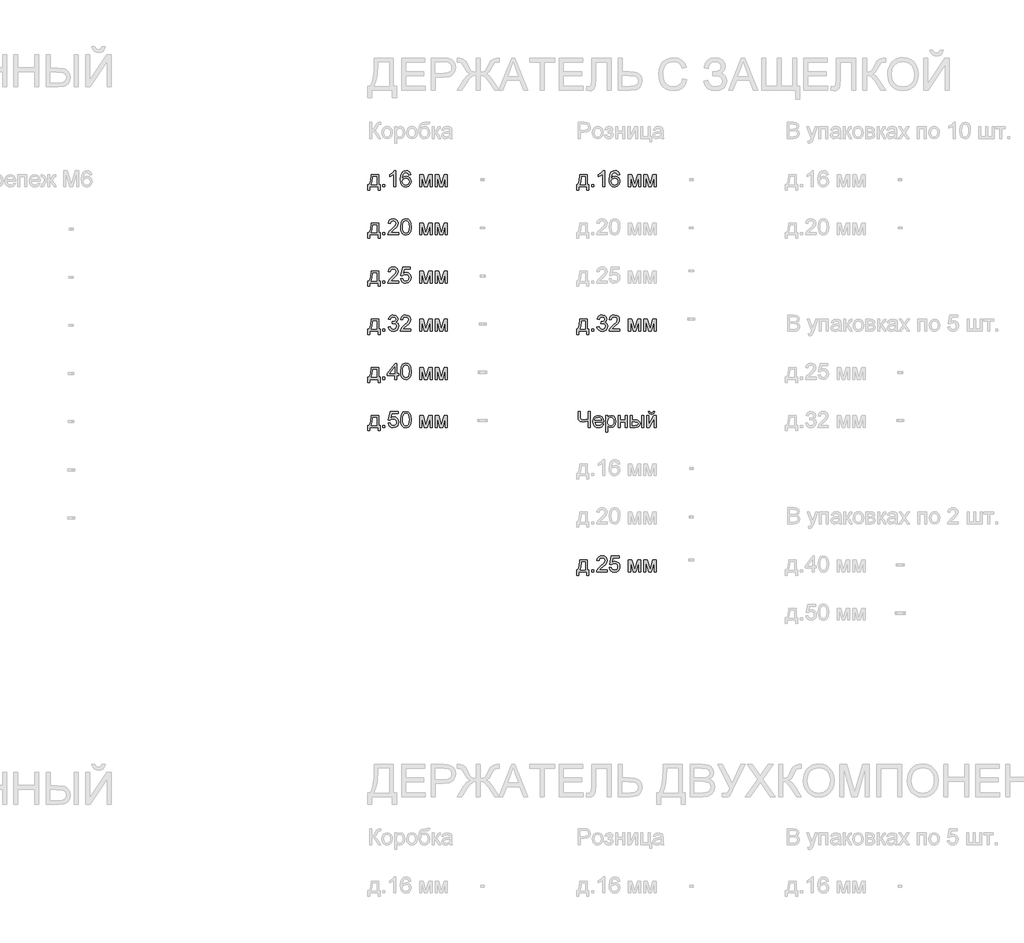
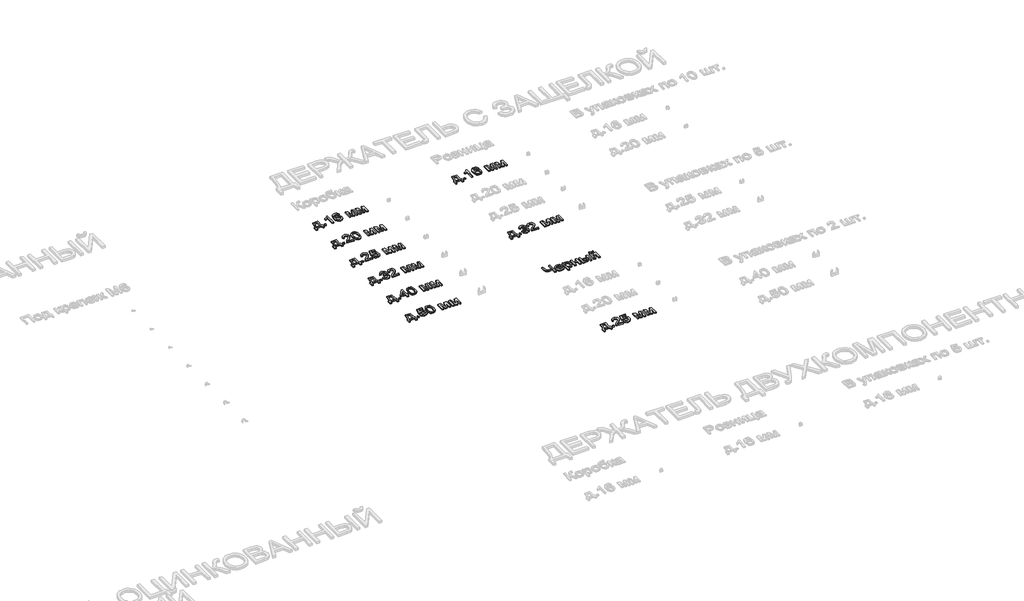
# One storey, part 41 of 98: 10 proxies.
"""IFC4 building model written with IfcOpenShell, lengths in millimetres."""

from ifc_helpers import new_model, si_unit, origin, origin_with_axes, place, context, project, spatial, polyline, outline, extrude, element, save

model = new_model("IFC4")

# Units and contexts
model_context = context("Model", 3, world=origin())
ifc_project = project(units=[si_unit("LENGTHUNIT", "METRE", prefix="MILLI")], contexts=[model_context])

# Site, building, storey
site = spatial("IfcSite", under=ifc_project)
building = spatial("IfcBuilding", under=site)
storey = spatial("IfcBuildingStorey", under=building, Name="Этаж 01", Elevation=0.0)

# Proxies
placement = place(None, origin())
element("IfcBuildingElementProxy", 1, Name="100", ObjectType="100", at=placement, inside=storey, context=model_context, shape_type="SweptSolid", body=[
    extrude(outline(polyline([(5774.7606918, -32185.7395637), (5821.8495872, -32185.7395637), (5821.8495872, -32246.9551277), (5831.2673663, -32246.9551277), (5831.2673663, -32279.9173545), (5818.7103275, -32279.9173545), (5818.7103275, -32259.5121665), (5766.9125426, -32259.5121665), (5766.9125426, -32279.9173545), (5754.3555038, -32279.9173545), (5754.3555038, -32246.9551277), (5762.2036531, -32246.9551277), (5771.903475, -32223.0060098), (5774.7606918, -32185.7395637)]), holes=[polyline([(5785.7481007, -32198.2966025), (5782.8050448, -32226.905559), (5776.3303217, -32246.9551277), (5809.2925484, -32246.9551277), (5809.2925484, -32198.2966025), (5785.7481007, -32198.2966025)])]), origin_with_axes(), (0.0, 0.0, 1.0), 10.0),
    extrude(outline(polyline([(5848.5332946, -32259.5121665), (5848.5332946, -32246.9551277), (5861.0903334, -32246.9551277), (5861.0903334, -32259.5121665), (5848.5332946, -32259.5121665)])), origin_with_axes(), (0.0, 0.0, 1.0), 10.0),
    extrude(outline(polyline([(5928.5844167, -32259.5121665), (5916.027378, -32259.5121665), (5916.027378, -32181.2268779), (5904.1325268, -32189.7004265), (5890.9133004, -32196.0402596), (5890.9133004, -32184.1699338), (5909.3196629, -32172.4222355), (5920.4910128, -32159.0558563), (5928.5844167, -32159.0558563), (5928.5844167, -32259.5121665)])), origin_with_axes(), (0.0, 0.0, 1.0), 10.0),
    extrude(outline(polyline([(6022.7622075, -32185.7395637), (6010.2051687, -32187.3091935), (6005.4472283, -32176.8368194), (5992.865664, -32171.6128951), (5981.5348986, -32174.6540529), (5972.9632481, -32186.0706575), (5969.3947927, -32208.4501455), (5980.4680408, -32198.4314925), (5994.1900392, -32195.1573428), (6005.7905848, -32197.3952916), (6015.5271949, -32204.109138), (6022.1306767, -32214.3669143), (6024.3318374, -32227.2366527), (6020.1870335, -32244.5638947), (6008.7826917, -32256.8266279), (5992.3261038, -32261.0817963), (5978.0798735, -32258.2613677), (5966.7337796, -32249.8000818), (5959.3117604, -32234.8640728), (5956.837754, -32212.6194748), (5959.5846062, -32187.6096305), (5967.8251629, -32170.5092491), (5979.0762206, -32161.9192045), (5993.650479, -32159.0558563), (6004.6685447, -32160.8278213), (6013.4915812, -32166.1437161), (6019.6719987, -32174.5866079), (6022.7622075, -32185.7395637)]), holes=[polyline([(5969.3947927, -32227.040449), (5972.3010605, -32237.9174933), (5980.0265824, -32245.8146935), (5991.3450851, -32248.5247575), (5999.6316271, -32247.1206746), (6006.1462041, -32242.9084257), (6010.36765, -32236.2865498), (6011.7747986, -32227.6535857), (6010.3860441, -32219.3670437), (6006.2197805, -32213.0486705), (5999.5948389, -32209.0479538), (5990.8300503, -32207.7143815), (5975.6365239, -32213.0486705), (5970.9552255, -32219.2137596), (5969.3947927, -32227.040449)])]), origin_with_axes(), (0.0, 0.0, 1.0), 10.0),
    extrude(outline(polyline([(6077.6992521, -32185.7395637), (6099.306188, -32185.7395637), (6115.9589796, -32244.7968867), (6133.911621, -32185.7395637), (6154.6111146, -32185.7395637), (6154.6111146, -32259.5121665), (6142.0540758, -32259.5121665), (6142.0540758, -32200.111487), (6124.0033326, -32259.5121665), (6107.5222192, -32259.5121665), (6090.2562909, -32197.2665329), (6090.2562909, -32259.5121665), (6077.6992521, -32259.5121665), (6077.6992521, -32185.7395637)])), origin_with_axes(), (0.0, 0.0, 1.0), 10.0),
    extrude(outline(polyline([(6173.4466727, -32185.7395637), (6195.0536086, -32185.7395637), (6211.7064002, -32244.7968867), (6229.6590416, -32185.7395637), (6250.3585352, -32185.7395637), (6250.3585352, -32259.5121665), (6237.8014964, -32259.5121665), (6237.8014964, -32200.111487), (6219.7507532, -32259.5121665), (6203.2696398, -32259.5121665), (6186.0037115, -32197.2665329), (6186.0037115, -32259.5121665), (6173.4466727, -32259.5121665), (6173.4466727, -32185.7395637)])), origin_with_axes(), (0.0, 0.0, 1.0), 10.0),
])
element("IfcBuildingElementProxy", 2, Name="100", ObjectType="100", at=placement, inside=storey, context=model_context, shape_type="SweptSolid", body=[
    extrude(outline(polyline([(5774.7606918, -32485.7395637), (5821.8495872, -32485.7395637), (5821.8495872, -32546.9551277), (5831.2673663, -32546.9551277), (5831.2673663, -32579.9173545), (5818.7103275, -32579.9173545), (5818.7103275, -32559.5121665), (5766.9125426, -32559.5121665), (5766.9125426, -32579.9173545), (5754.3555038, -32579.9173545), (5754.3555038, -32546.9551277), (5762.2036531, -32546.9551277), (5771.903475, -32523.0060098), (5774.7606918, -32485.7395637)]), holes=[polyline([(5785.7481007, -32498.2966025), (5782.8050448, -32526.905559), (5776.3303217, -32546.9551277), (5809.2925484, -32546.9551277), (5809.2925484, -32498.2966025), (5785.7481007, -32498.2966025)])]), origin_with_axes(), (0.0, 0.0, 1.0), 10.0),
    extrude(outline(polyline([(5848.5332946, -32559.5121665), (5848.5332946, -32546.9551277), (5861.0903334, -32546.9551277), (5861.0903334, -32559.5121665), (5848.5332946, -32559.5121665)])), origin_with_axes(), (0.0, 0.0, 1.0), 10.0),
    extrude(outline(polyline([(5945.850345, -32546.9551277), (5945.850345, -32559.5121665), (5879.9258915, -32559.5121665), (5881.2747922, -32550.8546768), (5888.9022122, -32537.5250859), (5904.6230361, -32522.9692216), (5926.3035484, -32502.0489988), (5931.7236764, -32487.8242283), (5926.6101167, -32476.3095219), (5913.2560003, -32471.6128951), (5899.3377981, -32476.1991573), (5894.0525601, -32488.8788234), (5881.4955214, -32487.3091935), (5884.5397449, -32475.1629563), (5891.1217669, -32466.2908689), (5900.8982309, -32460.8646095), (5913.5257804, -32459.0558563), (5926.2453004, -32461.0669445), (5936.0033703, -32467.1002093), (5942.211379, -32476.1133182), (5944.2807152, -32487.0639389), (5942.0488978, -32498.9710528), (5934.6299442, -32511.2828369), (5916.6405146, -32528.4874515), (5902.195015, -32540.5662437), (5896.5296322, -32546.9551277), (5945.850345, -32546.9551277)])), origin_with_axes(), (0.0, 0.0, 1.0), 10.0),
    extrude(outline(polyline([(5958.4073838, -32510.0933518), (5962.0984665, -32481.1900897), (5973.06135, -32464.5250353), (5991.3696106, -32459.0558563), (6006.0358395, -32462.2932179), (6016.1648571, -32471.6251578), (6022.050969, -32486.4875904), (6024.3318374, -32510.0933518), (6020.6775429, -32538.8739865), (6009.7514476, -32555.5758291), (6001.520088, -32559.7053045), (5991.3696106, -32561.0817963), (5978.3220625, -32558.6905633), (5968.4137741, -32551.5168644), (5960.9089814, -32534.5268476), (5958.4073838, -32510.0933518)]), holes=[polyline([(5970.9644226, -32510.0688263), (5972.4359506, -32529.8210238), (5976.8505345, -32541.2529568), (5983.4233595, -32546.7068073), (5991.3696106, -32548.5247575), (5999.3158617, -32546.700676), (6005.8886867, -32541.2284313), (6010.3032706, -32529.7903669), (6011.7747986, -32510.0688263), (6010.3523215, -32490.7611529), (6006.0848904, -32479.2403151), (5999.5243281, -32473.5197501), (5991.2224578, -32471.6128951), (5983.3620458, -32473.2928895), (5977.0467382, -32478.3328729), (5972.4850015, -32490.5710806), (5970.9644226, -32510.0688263)])]), origin_with_axes(), (0.0, 0.0, 1.0), 10.0),
    extrude(outline(polyline([(6077.6992521, -32485.7395637), (6099.306188, -32485.7395637), (6115.9589796, -32544.7968867), (6133.911621, -32485.7395637), (6154.6111146, -32485.7395637), (6154.6111146, -32559.5121665), (6142.0540758, -32559.5121665), (6142.0540758, -32500.111487), (6124.0033326, -32559.5121665), (6107.5222192, -32559.5121665), (6090.2562909, -32497.2665329), (6090.2562909, -32559.5121665), (6077.6992521, -32559.5121665), (6077.6992521, -32485.7395637)])), origin_with_axes(), (0.0, 0.0, 1.0), 10.0),
    extrude(outline(polyline([(6173.4466727, -32485.7395637), (6195.0536086, -32485.7395637), (6211.7064002, -32544.7968867), (6229.6590416, -32485.7395637), (6250.3585352, -32485.7395637), (6250.3585352, -32559.5121665), (6237.8014964, -32559.5121665), (6237.8014964, -32500.111487), (6219.7507532, -32559.5121665), (6203.2696398, -32559.5121665), (6186.0037115, -32497.2665329), (6186.0037115, -32559.5121665), (6173.4466727, -32559.5121665), (6173.4466727, -32485.7395637)])), origin_with_axes(), (0.0, 0.0, 1.0), 10.0),
])
element("IfcBuildingElementProxy", 3, Name="100", ObjectType="100", at=placement, inside=storey, context=model_context, shape_type="SweptSolid", body=[
    extrude(outline(polyline([(5774.7606918, -32785.7395637), (5821.8495872, -32785.7395637), (5821.8495872, -32846.9551277), (5831.2673663, -32846.9551277), (5831.2673663, -32879.9173545), (5818.7103275, -32879.9173545), (5818.7103275, -32859.5121665), (5766.9125426, -32859.5121665), (5766.9125426, -32879.9173545), (5754.3555038, -32879.9173545), (5754.3555038, -32846.9551277), (5762.2036531, -32846.9551277), (5771.903475, -32823.0060098), (5774.7606918, -32785.7395637)]), holes=[polyline([(5785.7481007, -32798.2966025), (5782.8050448, -32826.905559), (5776.3303217, -32846.9551277), (5809.2925484, -32846.9551277), (5809.2925484, -32798.2966025), (5785.7481007, -32798.2966025)])]), origin_with_axes(), (0.0, 0.0, 1.0), 10.0),
    extrude(outline(polyline([(5848.5332946, -32859.5121665), (5848.5332946, -32846.9551277), (5861.0903334, -32846.9551277), (5861.0903334, -32859.5121665), (5848.5332946, -32859.5121665)])), origin_with_axes(), (0.0, 0.0, 1.0), 10.0),
    extrude(outline(polyline([(5945.850345, -32846.9551277), (5945.850345, -32859.5121665), (5879.9258915, -32859.5121665), (5881.2747922, -32850.8546768), (5888.9022122, -32837.5250859), (5904.6230361, -32822.9692216), (5926.3035484, -32802.0489988), (5931.7236764, -32787.8242283), (5926.6101167, -32776.3095219), (5913.2560003, -32771.6128951), (5899.3377981, -32776.1991573), (5894.0525601, -32788.8788234), (5881.4955214, -32787.3091935), (5884.5397449, -32775.1629563), (5891.1217669, -32766.2908689), (5900.8982309, -32760.8646095), (5913.5257804, -32759.0558563), (5926.2453004, -32761.0669445), (5936.0033703, -32767.1002093), (5942.211379, -32776.1133182), (5944.2807152, -32787.0639389), (5942.0488978, -32798.9710528), (5934.6299442, -32811.2828369), (5916.6405146, -32828.4874515), (5902.195015, -32840.5662437), (5896.5296322, -32846.9551277), (5945.850345, -32846.9551277)])), origin_with_axes(), (0.0, 0.0, 1.0), 10.0),
    extrude(outline(polyline([(5958.4073838, -32832.8284591), (5970.9644226, -32831.2588292), (5977.2919929, -32844.1960127), (5990.4131174, -32848.5247575), (5999.4139635, -32847.019507), (6006.1584668, -32842.5037555), (6010.3707156, -32835.4986692), (6011.7747986, -32826.5254142), (6006.5140861, -32811.6139307), (5999.9075386, -32807.5120464), (5990.6093211, -32806.1447517), (5979.585124, -32808.3275182), (5972.5340524, -32813.9929009), (5959.9770137, -32812.4232711), (5970.9644226, -32760.6254862), (6019.6229478, -32760.6254862), (6019.6229478, -32773.1825249), (5981.1179657, -32773.1825249), (5975.7468885, -32800.847251), (5984.7170778, -32795.4025974), (5994.1164628, -32793.5877129), (6005.8488328, -32795.8379245), (6015.5885086, -32802.5885591), (6022.1460052, -32812.8769922), (6024.3318374, -32825.7405993), (6022.3636687, -32838.2976381), (6016.4591627, -32849.0397923), (6005.1529227, -32858.0712953), (5990.3640665, -32861.0817963), (5978.0308226, -32859.1473501), (5968.2053076, -32853.3440117), (5961.4700014, -32844.3462312), (5958.4073838, -32832.8284591)])), origin_with_axes(), (0.0, 0.0, 1.0), 10.0),
    extrude(outline(polyline([(6077.6992521, -32785.7395637), (6099.306188, -32785.7395637), (6115.9589796, -32844.7968867), (6133.911621, -32785.7395637), (6154.6111146, -32785.7395637), (6154.6111146, -32859.5121665), (6142.0540758, -32859.5121665), (6142.0540758, -32800.111487), (6124.0033326, -32859.5121665), (6107.5222192, -32859.5121665), (6090.2562909, -32797.2665329), (6090.2562909, -32859.5121665), (6077.6992521, -32859.5121665), (6077.6992521, -32785.7395637)])), origin_with_axes(), (0.0, 0.0, 1.0), 10.0),
    extrude(outline(polyline([(6173.4466727, -32785.7395637), (6195.0536086, -32785.7395637), (6211.7064002, -32844.7968867), (6229.6590416, -32785.7395637), (6250.3585352, -32785.7395637), (6250.3585352, -32859.5121665), (6237.8014964, -32859.5121665), (6237.8014964, -32800.111487), (6219.7507532, -32859.5121665), (6203.2696398, -32859.5121665), (6186.0037115, -32797.2665329), (6186.0037115, -32859.5121665), (6173.4466727, -32859.5121665), (6173.4466727, -32785.7395637)])), origin_with_axes(), (0.0, 0.0, 1.0), 10.0),
])
element("IfcBuildingElementProxy", 4, Name="100", ObjectType="100", at=placement, inside=storey, context=model_context, shape_type="SweptSolid", body=[
    extrude(outline(polyline([(5774.7606918, -33085.7395637), (5821.8495872, -33085.7395637), (5821.8495872, -33146.9551277), (5831.2673663, -33146.9551277), (5831.2673663, -33179.9173545), (5818.7103275, -33179.9173545), (5818.7103275, -33159.5121665), (5766.9125426, -33159.5121665), (5766.9125426, -33179.9173545), (5754.3555038, -33179.9173545), (5754.3555038, -33146.9551277), (5762.2036531, -33146.9551277), (5771.903475, -33123.0060098), (5774.7606918, -33085.7395637)]), holes=[polyline([(5785.7481007, -33098.2966025), (5782.8050448, -33126.905559), (5776.3303217, -33146.9551277), (5809.2925484, -33146.9551277), (5809.2925484, -33098.2966025), (5785.7481007, -33098.2966025)])]), origin_with_axes(), (0.0, 0.0, 1.0), 10.0),
    extrude(outline(polyline([(5848.5332946, -33159.5121665), (5848.5332946, -33146.9551277), (5861.0903334, -33146.9551277), (5861.0903334, -33159.5121665), (5848.5332946, -33159.5121665)])), origin_with_axes(), (0.0, 0.0, 1.0), 10.0),
    extrude(outline(polyline([(5881.4955214, -33132.8284591), (5894.0525601, -33131.2588292), (5900.9810044, -33144.4780556), (5913.9427133, -33148.5247575), (5922.551152, -33147.1329373), (5929.1975534, -33142.9574767), (5934.8629361, -33129.1741646), (5929.2466043, -33116.1879302), (5914.9727829, -33111.049845), (5906.1681405, -33112.4232711), (5907.5660921, -33099.8662323), (5909.5771803, -33100.0133851), (5923.8264763, -33096.4081416), (5928.572154, -33091.8341421), (5930.1540466, -33085.3226308), (5925.5677844, -33075.5001815), (5913.7465096, -33071.6128951), (5901.778082, -33075.5369697), (5895.62219, -33087.3091935), (5883.0651512, -33085.7395637), (5886.7623653, -33074.4639805), (5893.3413216, -33066.0456142), (5902.3421678, -33060.8032958), (5913.3050512, -33059.0558563), (5928.4495267, -33062.5016843), (5939.0445281, -33071.9194634), (5942.7110854, -33084.5868668), (5939.2284691, -33096.1628869), (5928.9277733, -33104.47702), (5942.6129835, -33113.0609332), (5947.4199749, -33129.3948938), (5945.0164792, -33141.6331015), (5937.8059921, -33151.860221), (5926.9228164, -33158.7764025), (5913.5012549, -33161.0817963), (5901.3611491, -33159.1136276), (5891.4773862, -33153.2091216), (5884.6041242, -33144.1776186), (5881.4955214, -33132.8284591)])), origin_with_axes(), (0.0, 0.0, 1.0), 10.0),
    extrude(outline(polyline([(6022.7622075, -33146.9551277), (6022.7622075, -33159.5121665), (5956.837754, -33159.5121665), (5958.1866546, -33150.8546768), (5965.8140747, -33137.5250859), (5981.5348986, -33122.9692216), (6003.2154108, -33102.0489988), (6008.6355389, -33087.8242283), (6003.5219792, -33076.3095219), (5990.1678627, -33071.6128951), (5976.2496606, -33076.1991573), (5970.9644226, -33088.8788234), (5958.4073838, -33087.3091935), (5961.4516073, -33075.1629563), (5968.0336294, -33066.2908689), (5977.8100934, -33060.8646095), (5990.4376429, -33059.0558563), (6003.1571628, -33061.0669445), (6012.9152328, -33067.1002093), (6019.1232414, -33076.1133182), (6021.1925777, -33087.0639389), (6018.9607602, -33098.9710528), (6011.5418067, -33111.2828369), (5993.5523771, -33128.4874515), (5979.1068774, -33140.5662437), (5973.4414947, -33146.9551277), (6022.7622075, -33146.9551277)])), origin_with_axes(), (0.0, 0.0, 1.0), 10.0),
    extrude(outline(polyline([(6077.6992521, -33085.7395637), (6099.306188, -33085.7395637), (6115.9589796, -33144.7968867), (6133.911621, -33085.7395637), (6154.6111146, -33085.7395637), (6154.6111146, -33159.5121665), (6142.0540758, -33159.5121665), (6142.0540758, -33100.111487), (6124.0033326, -33159.5121665), (6107.5222192, -33159.5121665), (6090.2562909, -33097.2665329), (6090.2562909, -33159.5121665), (6077.6992521, -33159.5121665), (6077.6992521, -33085.7395637)])), origin_with_axes(), (0.0, 0.0, 1.0), 10.0),
    extrude(outline(polyline([(6173.4466727, -33085.7395637), (6195.0536086, -33085.7395637), (6211.7064002, -33144.7968867), (6229.6590416, -33085.7395637), (6250.3585352, -33085.7395637), (6250.3585352, -33159.5121665), (6237.8014964, -33159.5121665), (6237.8014964, -33100.111487), (6219.7507532, -33159.5121665), (6203.2696398, -33159.5121665), (6186.0037115, -33097.2665329), (6186.0037115, -33159.5121665), (6173.4466727, -33159.5121665), (6173.4466727, -33085.7395637)])), origin_with_axes(), (0.0, 0.0, 1.0), 10.0),
])
element("IfcBuildingElementProxy", 5, Name="100", ObjectType="100", at=placement, inside=storey, context=model_context, shape_type="SweptSolid", body=[
    extrude(outline(polyline([(5774.7606918, -33385.7395637), (5821.8495872, -33385.7395637), (5821.8495872, -33446.9551277), (5831.2673663, -33446.9551277), (5831.2673663, -33479.9173545), (5818.7103275, -33479.9173545), (5818.7103275, -33459.5121665), (5766.9125426, -33459.5121665), (5766.9125426, -33479.9173545), (5754.3555038, -33479.9173545), (5754.3555038, -33446.9551277), (5762.2036531, -33446.9551277), (5771.903475, -33423.0060098), (5774.7606918, -33385.7395637)]), holes=[polyline([(5785.7481007, -33398.2966025), (5782.8050448, -33426.905559), (5776.3303217, -33446.9551277), (5809.2925484, -33446.9551277), (5809.2925484, -33398.2966025), (5785.7481007, -33398.2966025)])]), origin_with_axes(), (0.0, 0.0, 1.0), 10.0),
    extrude(outline(polyline([(5848.5332946, -33459.5121665), (5848.5332946, -33446.9551277), (5861.0903334, -33446.9551277), (5861.0903334, -33459.5121665), (5848.5332946, -33459.5121665)])), origin_with_axes(), (0.0, 0.0, 1.0), 10.0),
    extrude(outline(polyline([(5922.3058974, -33459.5121665), (5922.3058974, -33435.9677188), (5876.7866318, -33435.9677188), (5876.7866318, -33423.41068), (5925.445157, -33360.6254862), (5934.8629361, -33360.6254862), (5934.8629361, -33423.41068), (5947.4199749, -33423.41068), (5947.4199749, -33435.9677188), (5934.8629361, -33435.9677188), (5934.8629361, -33459.5121665), (5922.3058974, -33459.5121665)]), holes=[polyline([(5922.3058974, -33423.41068), (5922.3058974, -33384.6113922), (5892.2376756, -33423.41068), (5922.3058974, -33423.41068)])]), origin_with_axes(), (0.0, 0.0, 1.0), 10.0),
    extrude(outline(polyline([(5958.4073838, -33410.0933518), (5962.0984665, -33381.1900897), (5973.06135, -33364.5250353), (5991.3696106, -33359.0558563), (6006.0358395, -33362.2932179), (6016.1648571, -33371.6251578), (6022.050969, -33386.4875904), (6024.3318374, -33410.0933518), (6020.6775429, -33438.8739865), (6009.7514476, -33455.5758291), (6001.520088, -33459.7053045), (5991.3696106, -33461.0817963), (5978.3220625, -33458.6905633), (5968.4137741, -33451.5168644), (5960.9089814, -33434.5268476), (5958.4073838, -33410.0933518)]), holes=[polyline([(5970.9644226, -33410.0688263), (5972.4359506, -33429.8210238), (5976.8505345, -33441.2529568), (5983.4233595, -33446.7068073), (5991.3696106, -33448.5247575), (5999.3158617, -33446.700676), (6005.8886867, -33441.2284313), (6010.3032706, -33429.7903669), (6011.7747986, -33410.0688263), (6010.3523215, -33390.7611529), (6006.0848904, -33379.2403151), (5999.5243281, -33373.5197501), (5991.2224578, -33371.6128951), (5983.3620458, -33373.2928895), (5977.0467382, -33378.3328729), (5972.4850015, -33390.5710806), (5970.9644226, -33410.0688263)])]), origin_with_axes(), (0.0, 0.0, 1.0), 10.0),
    extrude(outline(polyline([(6077.6992521, -33385.7395637), (6099.306188, -33385.7395637), (6115.9589796, -33444.7968867), (6133.911621, -33385.7395637), (6154.6111146, -33385.7395637), (6154.6111146, -33459.5121665), (6142.0540758, -33459.5121665), (6142.0540758, -33400.111487), (6124.0033326, -33459.5121665), (6107.5222192, -33459.5121665), (6090.2562909, -33397.2665329), (6090.2562909, -33459.5121665), (6077.6992521, -33459.5121665), (6077.6992521, -33385.7395637)])), origin_with_axes(), (0.0, 0.0, 1.0), 10.0),
    extrude(outline(polyline([(6173.4466727, -33385.7395637), (6195.0536086, -33385.7395637), (6211.7064002, -33444.7968867), (6229.6590416, -33385.7395637), (6250.3585352, -33385.7395637), (6250.3585352, -33459.5121665), (6237.8014964, -33459.5121665), (6237.8014964, -33400.111487), (6219.7507532, -33459.5121665), (6203.2696398, -33459.5121665), (6186.0037115, -33397.2665329), (6186.0037115, -33459.5121665), (6173.4466727, -33459.5121665), (6173.4466727, -33385.7395637)])), origin_with_axes(), (0.0, 0.0, 1.0), 10.0),
])
element("IfcBuildingElementProxy", 6, Name="100", ObjectType="100", at=placement, inside=storey, context=model_context, shape_type="SweptSolid", body=[
    extrude(outline(polyline([(5774.7606918, -33685.7395637), (5821.8495872, -33685.7395637), (5821.8495872, -33746.9551277), (5831.2673663, -33746.9551277), (5831.2673663, -33779.9173545), (5818.7103275, -33779.9173545), (5818.7103275, -33759.5121665), (5766.9125426, -33759.5121665), (5766.9125426, -33779.9173545), (5754.3555038, -33779.9173545), (5754.3555038, -33746.9551277), (5762.2036531, -33746.9551277), (5771.903475, -33723.0060098), (5774.7606918, -33685.7395637)]), holes=[polyline([(5785.7481007, -33698.2966025), (5782.8050448, -33726.905559), (5776.3303217, -33746.9551277), (5809.2925484, -33746.9551277), (5809.2925484, -33698.2966025), (5785.7481007, -33698.2966025)])]), origin_with_axes(), (0.0, 0.0, 1.0), 10.0),
    extrude(outline(polyline([(5848.5332946, -33759.5121665), (5848.5332946, -33746.9551277), (5861.0903334, -33746.9551277), (5861.0903334, -33759.5121665), (5848.5332946, -33759.5121665)])), origin_with_axes(), (0.0, 0.0, 1.0), 10.0),
    extrude(outline(polyline([(5881.4955214, -33732.8284591), (5894.0525601, -33731.2588292), (5900.3801304, -33744.1960127), (5913.5012549, -33748.5247575), (5922.5021011, -33747.019507), (5929.2466043, -33742.5037555), (5933.4588532, -33735.4986692), (5934.8629361, -33726.5254142), (5929.6022236, -33711.6139307), (5922.9956761, -33707.5120464), (5913.6974587, -33706.1447517), (5902.6732615, -33708.3275182), (5895.62219, -33713.9929009), (5883.0651512, -33712.4232711), (5894.0525601, -33660.6254862), (5942.7110854, -33660.6254862), (5942.7110854, -33673.1825249), (5904.2061032, -33673.1825249), (5898.8350261, -33700.847251), (5907.8052154, -33695.4025974), (5917.2046004, -33693.5877129), (5928.9369703, -33695.8379245), (5938.6766461, -33702.5885591), (5945.2341427, -33712.8769922), (5947.4199749, -33725.7405993), (5945.4518062, -33738.2976381), (5939.5473002, -33749.0397923), (5928.2410602, -33758.0712953), (5913.452204, -33761.0817963), (5901.1189601, -33759.1473501), (5891.2934452, -33753.3440117), (5884.558139, -33744.3462312), (5881.4955214, -33732.8284591)])), origin_with_axes(), (0.0, 0.0, 1.0), 10.0),
    extrude(outline(polyline([(5958.4073838, -33710.0933518), (5962.0984665, -33681.1900897), (5973.06135, -33664.5250353), (5991.3696106, -33659.0558563), (6006.0358395, -33662.2932179), (6016.1648571, -33671.6251578), (6022.050969, -33686.4875904), (6024.3318374, -33710.0933518), (6020.6775429, -33738.8739865), (6009.7514476, -33755.5758291), (6001.520088, -33759.7053045), (5991.3696106, -33761.0817963), (5978.3220625, -33758.6905633), (5968.4137741, -33751.5168644), (5960.9089814, -33734.5268476), (5958.4073838, -33710.0933518)]), holes=[polyline([(5970.9644226, -33710.0688263), (5972.4359506, -33729.8210238), (5976.8505345, -33741.2529568), (5983.4233595, -33746.7068073), (5991.3696106, -33748.5247575), (5999.3158617, -33746.700676), (6005.8886867, -33741.2284313), (6010.3032706, -33729.7903669), (6011.7747986, -33710.0688263), (6010.3523215, -33690.7611529), (6006.0848904, -33679.2403151), (5999.5243281, -33673.5197501), (5991.2224578, -33671.6128951), (5983.3620458, -33673.2928895), (5977.0467382, -33678.3328729), (5972.4850015, -33690.5710806), (5970.9644226, -33710.0688263)])]), origin_with_axes(), (0.0, 0.0, 1.0), 10.0),
    extrude(outline(polyline([(6077.6992521, -33685.7395637), (6099.306188, -33685.7395637), (6115.9589796, -33744.7968867), (6133.911621, -33685.7395637), (6154.6111146, -33685.7395637), (6154.6111146, -33759.5121665), (6142.0540758, -33759.5121665), (6142.0540758, -33700.111487), (6124.0033326, -33759.5121665), (6107.5222192, -33759.5121665), (6090.2562909, -33697.2665329), (6090.2562909, -33759.5121665), (6077.6992521, -33759.5121665), (6077.6992521, -33685.7395637)])), origin_with_axes(), (0.0, 0.0, 1.0), 10.0),
    extrude(outline(polyline([(6173.4466727, -33685.7395637), (6195.0536086, -33685.7395637), (6211.7064002, -33744.7968867), (6229.6590416, -33685.7395637), (6250.3585352, -33685.7395637), (6250.3585352, -33759.5121665), (6237.8014964, -33759.5121665), (6237.8014964, -33700.111487), (6219.7507532, -33759.5121665), (6203.2696398, -33759.5121665), (6186.0037115, -33697.2665329), (6186.0037115, -33759.5121665), (6173.4466727, -33759.5121665), (6173.4466727, -33685.7395637)])), origin_with_axes(), (0.0, 0.0, 1.0), 10.0),
])
element("IfcBuildingElementProxy", 7, Name="100", ObjectType="100", at=placement, inside=storey, context=model_context, shape_type="SweptSolid", body=[
    extrude(outline(polyline([(7074.7606918, -32185.7395637), (7121.8495872, -32185.7395637), (7121.8495872, -32246.9551277), (7131.2673663, -32246.9551277), (7131.2673663, -32279.9173545), (7118.7103275, -32279.9173545), (7118.7103275, -32259.5121665), (7066.9125426, -32259.5121665), (7066.9125426, -32279.9173545), (7054.3555038, -32279.9173545), (7054.3555038, -32246.9551277), (7062.2036531, -32246.9551277), (7071.903475, -32223.0060098), (7074.7606918, -32185.7395637)]), holes=[polyline([(7085.7481007, -32198.2966025), (7082.8050448, -32226.905559), (7076.3303217, -32246.9551277), (7109.2925484, -32246.9551277), (7109.2925484, -32198.2966025), (7085.7481007, -32198.2966025)])]), origin_with_axes(), (0.0, 0.0, 1.0), 10.0),
    extrude(outline(polyline([(7148.5332946, -32259.5121665), (7148.5332946, -32246.9551277), (7161.0903334, -32246.9551277), (7161.0903334, -32259.5121665), (7148.5332946, -32259.5121665)])), origin_with_axes(), (0.0, 0.0, 1.0), 10.0),
    extrude(outline(polyline([(7228.5844167, -32259.5121665), (7216.027378, -32259.5121665), (7216.027378, -32181.2268779), (7204.1325268, -32189.7004265), (7190.9133004, -32196.0402596), (7190.9133004, -32184.1699338), (7209.3196629, -32172.4222355), (7220.4910128, -32159.0558563), (7228.5844167, -32159.0558563), (7228.5844167, -32259.5121665)])), origin_with_axes(), (0.0, 0.0, 1.0), 10.0),
    extrude(outline(polyline([(7322.7622075, -32185.7395637), (7310.2051687, -32187.3091935), (7305.4472283, -32176.8368194), (7292.865664, -32171.6128951), (7281.5348986, -32174.6540529), (7272.9632481, -32186.0706575), (7269.3947927, -32208.4501455), (7280.4680408, -32198.4314925), (7294.1900392, -32195.1573428), (7305.7905848, -32197.3952916), (7315.5271949, -32204.109138), (7322.1306767, -32214.3669143), (7324.3318374, -32227.2366527), (7320.1870335, -32244.5638947), (7308.7826917, -32256.8266279), (7292.3261038, -32261.0817963), (7278.0798735, -32258.2613677), (7266.7337796, -32249.8000818), (7259.3117604, -32234.8640728), (7256.837754, -32212.6194748), (7259.5846062, -32187.6096305), (7267.8251629, -32170.5092491), (7279.0762206, -32161.9192045), (7293.650479, -32159.0558563), (7304.6685447, -32160.8278213), (7313.4915812, -32166.1437161), (7319.6719987, -32174.5866079), (7322.7622075, -32185.7395637)]), holes=[polyline([(7269.3947927, -32227.040449), (7272.3010605, -32237.9174933), (7280.0265824, -32245.8146935), (7291.3450851, -32248.5247575), (7299.6316271, -32247.1206746), (7306.1462041, -32242.9084257), (7310.36765, -32236.2865498), (7311.7747986, -32227.6535857), (7310.3860441, -32219.3670437), (7306.2197805, -32213.0486705), (7299.5948389, -32209.0479538), (7290.8300503, -32207.7143815), (7275.6365239, -32213.0486705), (7270.9552255, -32219.2137596), (7269.3947927, -32227.040449)])]), origin_with_axes(), (0.0, 0.0, 1.0), 10.0),
    extrude(outline(polyline([(7377.6992521, -32185.7395637), (7399.306188, -32185.7395637), (7415.9589796, -32244.7968867), (7433.911621, -32185.7395637), (7454.6111146, -32185.7395637), (7454.6111146, -32259.5121665), (7442.0540758, -32259.5121665), (7442.0540758, -32200.111487), (7424.0033326, -32259.5121665), (7407.5222192, -32259.5121665), (7390.2562909, -32197.2665329), (7390.2562909, -32259.5121665), (7377.6992521, -32259.5121665), (7377.6992521, -32185.7395637)])), origin_with_axes(), (0.0, 0.0, 1.0), 10.0),
    extrude(outline(polyline([(7473.4466727, -32185.7395637), (7495.0536086, -32185.7395637), (7511.7064002, -32244.7968867), (7529.6590416, -32185.7395637), (7550.3585352, -32185.7395637), (7550.3585352, -32259.5121665), (7537.8014964, -32259.5121665), (7537.8014964, -32200.111487), (7519.7507532, -32259.5121665), (7503.2696398, -32259.5121665), (7486.0037115, -32197.2665329), (7486.0037115, -32259.5121665), (7473.4466727, -32259.5121665), (7473.4466727, -32185.7395637)])), origin_with_axes(), (0.0, 0.0, 1.0), 10.0),
])
element("IfcBuildingElementProxy", 8, Name="100", ObjectType="100", at=placement, inside=storey, context=model_context, shape_type="SweptSolid", body=[
    extrude(outline(polyline([(7074.7606918, -33085.7395637), (7121.8495872, -33085.7395637), (7121.8495872, -33146.9551277), (7131.2673663, -33146.9551277), (7131.2673663, -33179.9173545), (7118.7103275, -33179.9173545), (7118.7103275, -33159.5121665), (7066.9125426, -33159.5121665), (7066.9125426, -33179.9173545), (7054.3555038, -33179.9173545), (7054.3555038, -33146.9551277), (7062.2036531, -33146.9551277), (7071.903475, -33123.0060098), (7074.7606918, -33085.7395637)]), holes=[polyline([(7085.7481007, -33098.2966025), (7082.8050448, -33126.905559), (7076.3303217, -33146.9551277), (7109.2925484, -33146.9551277), (7109.2925484, -33098.2966025), (7085.7481007, -33098.2966025)])]), origin_with_axes(), (0.0, 0.0, 1.0), 10.0),
    extrude(outline(polyline([(7148.5332946, -33159.5121665), (7148.5332946, -33146.9551277), (7161.0903334, -33146.9551277), (7161.0903334, -33159.5121665), (7148.5332946, -33159.5121665)])), origin_with_axes(), (0.0, 0.0, 1.0), 10.0),
    extrude(outline(polyline([(7181.4955214, -33132.8284591), (7194.0525601, -33131.2588292), (7200.9810044, -33144.4780556), (7213.9427133, -33148.5247575), (7222.551152, -33147.1329373), (7229.1975534, -33142.9574767), (7234.8629361, -33129.1741646), (7229.2466043, -33116.1879302), (7214.9727829, -33111.049845), (7206.1681405, -33112.4232711), (7207.5660921, -33099.8662323), (7209.5771803, -33100.0133851), (7223.8264763, -33096.4081416), (7228.572154, -33091.8341421), (7230.1540466, -33085.3226308), (7225.5677844, -33075.5001815), (7213.7465096, -33071.6128951), (7201.778082, -33075.5369697), (7195.62219, -33087.3091935), (7183.0651512, -33085.7395637), (7186.7623653, -33074.4639805), (7193.3413216, -33066.0456142), (7202.3421678, -33060.8032958), (7213.3050512, -33059.0558563), (7228.4495267, -33062.5016843), (7239.0445281, -33071.9194634), (7242.7110854, -33084.5868668), (7239.2284691, -33096.1628869), (7228.9277733, -33104.47702), (7242.6129835, -33113.0609332), (7247.4199749, -33129.3948938), (7245.0164792, -33141.6331015), (7237.8059921, -33151.860221), (7226.9228164, -33158.7764025), (7213.5012549, -33161.0817963), (7201.3611491, -33159.1136276), (7191.4773862, -33153.2091216), (7184.6041242, -33144.1776186), (7181.4955214, -33132.8284591)])), origin_with_axes(), (0.0, 0.0, 1.0), 10.0),
    extrude(outline(polyline([(7322.7622075, -33146.9551277), (7322.7622075, -33159.5121665), (7256.837754, -33159.5121665), (7258.1866546, -33150.8546768), (7265.8140747, -33137.5250859), (7281.5348986, -33122.9692216), (7303.2154108, -33102.0489988), (7308.6355389, -33087.8242283), (7303.5219792, -33076.3095219), (7290.1678627, -33071.6128951), (7276.2496606, -33076.1991573), (7270.9644226, -33088.8788234), (7258.4073838, -33087.3091935), (7261.4516073, -33075.1629563), (7268.0336294, -33066.2908689), (7277.8100934, -33060.8646095), (7290.4376429, -33059.0558563), (7303.1571628, -33061.0669445), (7312.9152328, -33067.1002093), (7319.1232414, -33076.1133182), (7321.1925777, -33087.0639389), (7318.9607602, -33098.9710528), (7311.5418067, -33111.2828369), (7293.5523771, -33128.4874515), (7279.1068774, -33140.5662437), (7273.4414947, -33146.9551277), (7322.7622075, -33146.9551277)])), origin_with_axes(), (0.0, 0.0, 1.0), 10.0),
    extrude(outline(polyline([(7377.6992521, -33085.7395637), (7399.306188, -33085.7395637), (7415.9589796, -33144.7968867), (7433.911621, -33085.7395637), (7454.6111146, -33085.7395637), (7454.6111146, -33159.5121665), (7442.0540758, -33159.5121665), (7442.0540758, -33100.111487), (7424.0033326, -33159.5121665), (7407.5222192, -33159.5121665), (7390.2562909, -33097.2665329), (7390.2562909, -33159.5121665), (7377.6992521, -33159.5121665), (7377.6992521, -33085.7395637)])), origin_with_axes(), (0.0, 0.0, 1.0), 10.0),
    extrude(outline(polyline([(7473.4466727, -33085.7395637), (7495.0536086, -33085.7395637), (7511.7064002, -33144.7968867), (7529.6590416, -33085.7395637), (7550.3585352, -33085.7395637), (7550.3585352, -33159.5121665), (7537.8014964, -33159.5121665), (7537.8014964, -33100.111487), (7519.7507532, -33159.5121665), (7503.2696398, -33159.5121665), (7486.0037115, -33097.2665329), (7486.0037115, -33159.5121665), (7473.4466727, -33159.5121665), (7473.4466727, -33085.7395637)])), origin_with_axes(), (0.0, 0.0, 1.0), 10.0),
])
element("IfcBuildingElementProxy", 9, Name="100", ObjectType="100", at=placement, inside=storey, context=model_context, shape_type="SweptSolid", body=[
    extrude(outline(polyline([(7138.8048339, -33759.5121665), (7126.2477952, -33759.5121665), (7126.2477952, -33719.2904017), (7095.1495038, -33726.5499397), (7076.7921923, -33721.5835328), (7066.1481399, -33708.9774431), (7063.4626013, -33688.9769252), (7063.4626013, -33659.0558563), (7076.0196401, -33659.0558563), (7076.0196401, -33687.2846681), (7077.5279563, -33700.8625794), (7082.0529048, -33708.8302903), (7096.5474554, -33713.9929009), (7126.2477952, -33707.7634325), (7126.2477952, -33659.0558563), (7138.8048339, -33659.0558563), (7138.8048339, -33759.5121665)])), origin_with_axes(), (0.0, 0.0, 1.0), 10.0),
    extrude(outline(polyline([(7210.8606541, -33737.5373486), (7223.1724382, -33739.1069785), (7218.7363944, -33748.3837361), (7211.6577317, -33755.3183117), (7202.0958655, -33759.6409252), (7190.2102114, -33761.0817963), (7175.4765375, -33758.5955272), (7164.1396407, -33751.1367197), (7156.9107595, -33739.1897519), (7154.5011324, -33723.2390017), (7156.9352849, -33706.751757), (7164.2377425, -33694.4215788), (7175.4213552, -33686.7328451), (7189.4989729, -33684.1699338), (7203.1381978, -33686.7267137), (7214.0367019, -33694.3970533), (7221.1828097, -33706.7027061), (7223.5648456, -33723.1654253), (7223.4912692, -33726.5499397), (7167.0581712, -33726.5499397), (7169.2317406, -33735.9493247), (7174.280921, -33742.8593748), (7181.5680502, -33747.1084119), (7190.4554661, -33748.5247575), (7202.7672502, -33745.9005326), (7210.8606541, -33737.5373486)]), holes=[polyline([(7167.0581712, -33713.9929009), (7211.0078069, -33713.9929009), (7205.9800863, -33702.6130845), (7198.6592345, -33698.1985006), (7189.4499219, -33696.7269726), (7173.9866154, -33701.4235994), (7169.121376, -33706.9142382), (7167.0581712, -33713.9929009)])]), origin_with_axes(), (0.0, 0.0, 1.0), 10.0),
    extrude(outline(polyline([(7236.1218844, -33787.7655037), (7236.1218844, -33685.7395637), (7248.6789232, -33685.7395637), (7248.6789232, -33698.0513478), (7257.3609382, -33687.6402873), (7269.0841112, -33684.1699338), (7285.0011388, -33689.0259762), (7295.3999365, -33702.7111864), (7298.9070782, -33722.0617793), (7294.9462154, -33742.4056537), (7283.4437717, -33756.2625422), (7267.5635322, -33761.0817963), (7256.637437, -33757.8566975), (7248.6789232, -33749.7019799), (7248.6789232, -33787.7655037), (7236.1218844, -33787.7655037)]), holes=[polyline([(7248.6789232, -33723.2144763), (7250.0370209, -33734.4716653), (7254.111314, -33742.34434), (7260.1231189, -33746.9796532), (7267.2937521, -33748.5247575), (7274.5808813, -33746.9244709), (7280.7459704, -33742.1236108), (7284.9490222, -33733.9627619), (7286.3500395, -33722.2825085), (7284.9827447, -33711.0866332), (7280.8808605, -33703.1035939), (7274.8782526, -33698.3211279), (7267.8087869, -33696.7269726), (7260.7117301, -33698.4222955), (7254.4791959, -33703.5082641), (7250.1289914, -33711.8254628), (7248.6789232, -33723.2144763)])]), origin_with_axes(), (0.0, 0.0, 1.0), 10.0),
    extrude(outline(polyline([(7313.0337468, -33685.7395637), (7325.5907856, -33685.7395637), (7325.5907856, -33713.9929009), (7358.5530124, -33713.9929009), (7358.5530124, -33685.7395637), (7371.1100512, -33685.7395637), (7371.1100512, -33759.5121665), (7358.5530124, -33759.5121665), (7358.5530124, -33726.5499397), (7325.5907856, -33726.5499397), (7325.5907856, -33759.5121665), (7313.0337468, -33759.5121665), (7313.0337468, -33685.7395637)])), origin_with_axes(), (0.0, 0.0, 1.0), 10.0),
    extrude(outline(polyline([(7459.0093225, -33685.7395637), (7471.5663613, -33685.7395637), (7471.5663613, -33759.5121665), (7459.0093225, -33759.5121665), (7459.0093225, -33685.7395637)])), origin_with_axes(), (0.0, 0.0, 1.0), 10.0),
    extrude(outline(polyline([(7389.9456093, -33685.7395637), (7402.5026481, -33685.7395637), (7402.5026481, -33712.4232711), (7418.0272683, -33712.4232711), (7431.445764, -33713.9959666), (7441.387775, -33718.7140532), (7447.5406013, -33726.1973861), (7449.5915435, -33736.0658206), (7447.8716951, -33745.0513384), (7442.7121501, -33752.6327731), (7433.7756833, -33757.7923181), (7420.7250696, -33759.5121665), (7389.9456093, -33759.5121665), (7389.9456093, -33685.7395637)]), holes=[polyline([(7402.5026481, -33746.9551277), (7415.4030434, -33746.9551277), (7432.055835, -33744.3186401), (7437.0345047, -33736.0903461), (7433.343422, -33728.3648242), (7417.0462496, -33724.9803098), (7402.5026481, -33724.9803098), (7402.5026481, -33746.9551277)])]), origin_with_axes(), (0.0, 0.0, 1.0), 10.0),
    extrude(outline(polyline([(7531.2122955, -33659.0558563), (7540.6300745, -33659.0558563), (7534.5354961, -33673.0231094), (7521.0097015, -33677.8914145), (7506.367998, -33673.0598976), (7499.8196985, -33659.0558563), (7509.2374776, -33659.0558563), (7512.7691448, -33666.1314533), (7519.88153, -33668.4736354), (7527.6806283, -33666.2050297), (7531.2122955, -33659.0558563)])), origin_with_axes(), (0.0, 0.0, 1.0), 10.0),
    extrude(outline(polyline([(7490.4019195, -33685.7395637), (7502.9589582, -33685.7395637), (7502.9589582, -33742.0009835), (7533.8119949, -33685.7395637), (7550.0478536, -33685.7395637), (7550.0478536, -33759.5121665), (7537.4908148, -33759.5121665), (7537.4908148, -33703.5941032), (7506.8339819, -33759.5121665), (7490.4019195, -33759.5121665), (7490.4019195, -33685.7395637)])), origin_with_axes(), (0.0, 0.0, 1.0), 10.0),
])
element("IfcBuildingElementProxy", 10, Name="100", ObjectType="100", at=placement, inside=storey, context=model_context, shape_type="SweptSolid", body=[
    extrude(outline(polyline([(7074.7606918, -34585.7395637), (7121.8495872, -34585.7395637), (7121.8495872, -34646.9551277), (7131.2673663, -34646.9551277), (7131.2673663, -34679.9173545), (7118.7103275, -34679.9173545), (7118.7103275, -34659.5121665), (7066.9125426, -34659.5121665), (7066.9125426, -34679.9173545), (7054.3555038, -34679.9173545), (7054.3555038, -34646.9551277), (7062.2036531, -34646.9551277), (7071.903475, -34623.0060098), (7074.7606918, -34585.7395637)]), holes=[polyline([(7085.7481007, -34598.2966025), (7082.8050448, -34626.905559), (7076.3303217, -34646.9551277), (7109.2925484, -34646.9551277), (7109.2925484, -34598.2966025), (7085.7481007, -34598.2966025)])]), origin_with_axes(), (0.0, 0.0, 1.0), 10.0),
    extrude(outline(polyline([(7148.5332946, -34659.5121665), (7148.5332946, -34646.9551277), (7161.0903334, -34646.9551277), (7161.0903334, -34659.5121665), (7148.5332946, -34659.5121665)])), origin_with_axes(), (0.0, 0.0, 1.0), 10.0),
    extrude(outline(polyline([(7245.850345, -34646.9551277), (7245.850345, -34659.5121665), (7179.9258915, -34659.5121665), (7181.2747922, -34650.8546768), (7188.9022122, -34637.5250859), (7204.6230361, -34622.9692216), (7226.3035484, -34602.0489988), (7231.7236764, -34587.8242283), (7226.6101167, -34576.3095219), (7213.2560003, -34571.6128951), (7199.3377981, -34576.1991573), (7194.0525601, -34588.8788234), (7181.4955214, -34587.3091935), (7184.5397449, -34575.1629563), (7191.1217669, -34566.2908689), (7200.8982309, -34560.8646095), (7213.5257804, -34559.0558563), (7226.2453004, -34561.0669445), (7236.0033703, -34567.1002093), (7242.211379, -34576.1133182), (7244.2807152, -34587.0639389), (7242.0488978, -34598.9710528), (7234.6299442, -34611.2828369), (7216.6405146, -34628.4874515), (7202.195015, -34640.5662437), (7196.5296322, -34646.9551277), (7245.850345, -34646.9551277)])), origin_with_axes(), (0.0, 0.0, 1.0), 10.0),
    extrude(outline(polyline([(7258.4073838, -34632.8284591), (7270.9644226, -34631.2588292), (7277.2919929, -34644.1960127), (7290.4131174, -34648.5247575), (7299.4139635, -34647.019507), (7306.1584668, -34642.5037555), (7310.3707156, -34635.4986692), (7311.7747986, -34626.5254142), (7306.5140861, -34611.6139307), (7299.9075386, -34607.5120464), (7290.6093211, -34606.1447517), (7279.585124, -34608.3275182), (7272.5340524, -34613.9929009), (7259.9770137, -34612.4232711), (7270.9644226, -34560.6254862), (7319.6229478, -34560.6254862), (7319.6229478, -34573.1825249), (7281.1179657, -34573.1825249), (7275.7468885, -34600.847251), (7284.7170778, -34595.4025974), (7294.1164628, -34593.5877129), (7305.8488328, -34595.8379245), (7315.5885086, -34602.5885591), (7322.1460052, -34612.8769922), (7324.3318374, -34625.7405993), (7322.3636687, -34638.2976381), (7316.4591627, -34649.0397923), (7305.1529227, -34658.0712953), (7290.3640665, -34661.0817963), (7278.0308226, -34659.1473501), (7268.2053076, -34653.3440117), (7261.4700014, -34644.3462312), (7258.4073838, -34632.8284591)])), origin_with_axes(), (0.0, 0.0, 1.0), 10.0),
    extrude(outline(polyline([(7377.6992521, -34585.7395637), (7399.306188, -34585.7395637), (7415.9589796, -34644.7968867), (7433.911621, -34585.7395637), (7454.6111146, -34585.7395637), (7454.6111146, -34659.5121665), (7442.0540758, -34659.5121665), (7442.0540758, -34600.111487), (7424.0033326, -34659.5121665), (7407.5222192, -34659.5121665), (7390.2562909, -34597.2665329), (7390.2562909, -34659.5121665), (7377.6992521, -34659.5121665), (7377.6992521, -34585.7395637)])), origin_with_axes(), (0.0, 0.0, 1.0), 10.0),
    extrude(outline(polyline([(7473.4466727, -34585.7395637), (7495.0536086, -34585.7395637), (7511.7064002, -34644.7968867), (7529.6590416, -34585.7395637), (7550.3585352, -34585.7395637), (7550.3585352, -34659.5121665), (7537.8014964, -34659.5121665), (7537.8014964, -34600.111487), (7519.7507532, -34659.5121665), (7503.2696398, -34659.5121665), (7486.0037115, -34597.2665329), (7486.0037115, -34659.5121665), (7473.4466727, -34659.5121665), (7473.4466727, -34585.7395637)])), origin_with_axes(), (0.0, 0.0, 1.0), 10.0),
])

save(model, "model.ifc")
